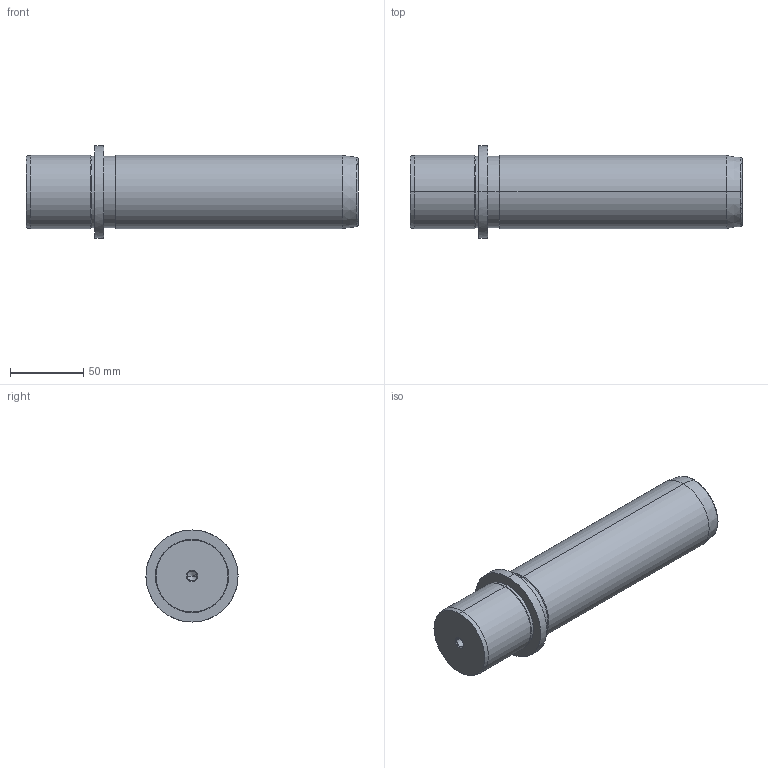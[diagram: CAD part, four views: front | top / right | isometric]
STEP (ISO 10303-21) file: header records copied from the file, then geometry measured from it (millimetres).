
FILE_DESCRIPTION(('CATIA V5 STEP Exchange'),'2;1');
FILE_NAME('C:\Users\Utente\Desktop\IO LAVORO\3D X SITO CF\X SITO\718\718-50x180.stp','2021-01-02T12:23:22+00:00',('none'),('none'),'CATIA Version 5 Release 20 GA (IN-10)','CATIA V5 STEP AP203','none');
FILE_SCHEMA(('CONFIG_CONTROL_DESIGN'));
Length unit declared in the file: millimetre
Products named in the file (1): 718-50x180
Bounding box: 227 x 63 x 63 mm (x, y, z)
Volume: 448770.5 mm3; surface area: 42940.6 mm2
Topology: 1 solids, 1 shells, 36 faces, 100 edges, 66 vertices
Faces by surface type: cone 16, cylinder 14, plane 4, torus 2
Entity records: 1291 total; most frequent: CARTESIAN_POINT 362, ORIENTED_EDGE 192, DIRECTION 157, EDGE_CURVE 96, AXIS2_PLACEMENT_3D 92, VERTEX_POINT 66, CIRCLE 55, EDGE_LOOP 40
